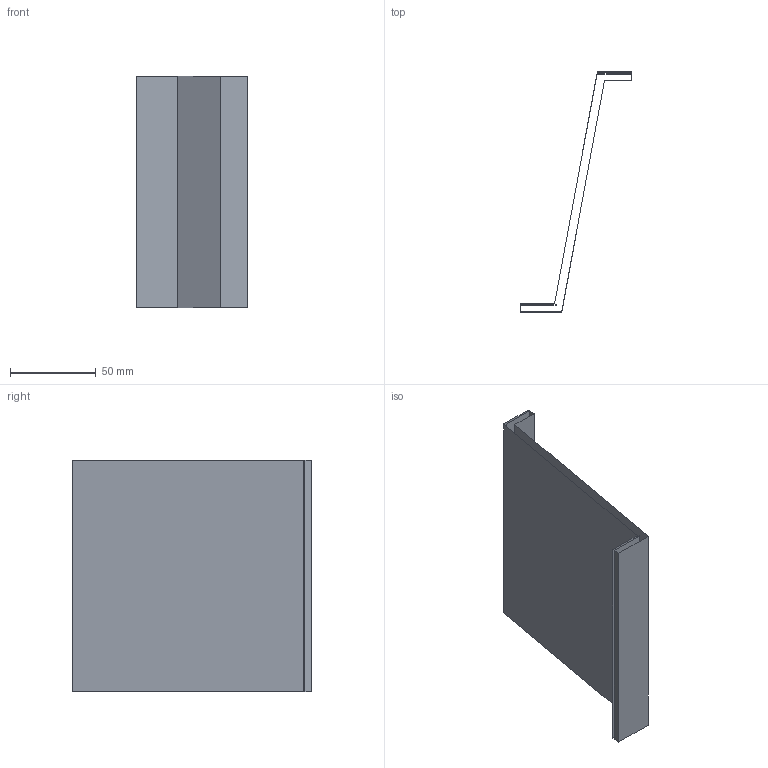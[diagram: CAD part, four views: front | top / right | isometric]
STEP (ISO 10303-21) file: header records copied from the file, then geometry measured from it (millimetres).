
FILE_DESCRIPTION(('CATIA V5 STEP Exchange'),'2;1');
FILE_NAME('C:\_Andres\UNIVERSIDAD\IQS\ASIGNATURAS\DAO\EXF\EXF-16172c\2inicio\Uria_Ciurana_Ej06_v35.stp','2017-03-05T21:01:30+00:00',('none'),('none'),'CATIA Version 5-6 Release 2014 SP1 HF18','CATIA V5 STEP AP203','none');
FILE_SCHEMA(('CONFIG_CONTROL_DESIGN'));
Length unit declared in the file: millimetre
Products named in the file (1): Uria_Ciurana_Ej06_v35
Bounding box: 65 x 140 x 135 mm (x, y, z)
Surface area: 54349.7 mm2 (no closed solid volume)
Topology: 0 solids, 2 shells, 10 faces, 42 edges, 36 vertices
Faces by surface type: plane 10
Entity records: 461 total; most frequent: CARTESIAN_POINT 100, DIRECTION 59, ORIENTED_EDGE 40, VECTOR 39, LINE 39, EDGE_CURVE 32, VERTEX_POINT 24, AXIS2_PLACEMENT_3D 11
